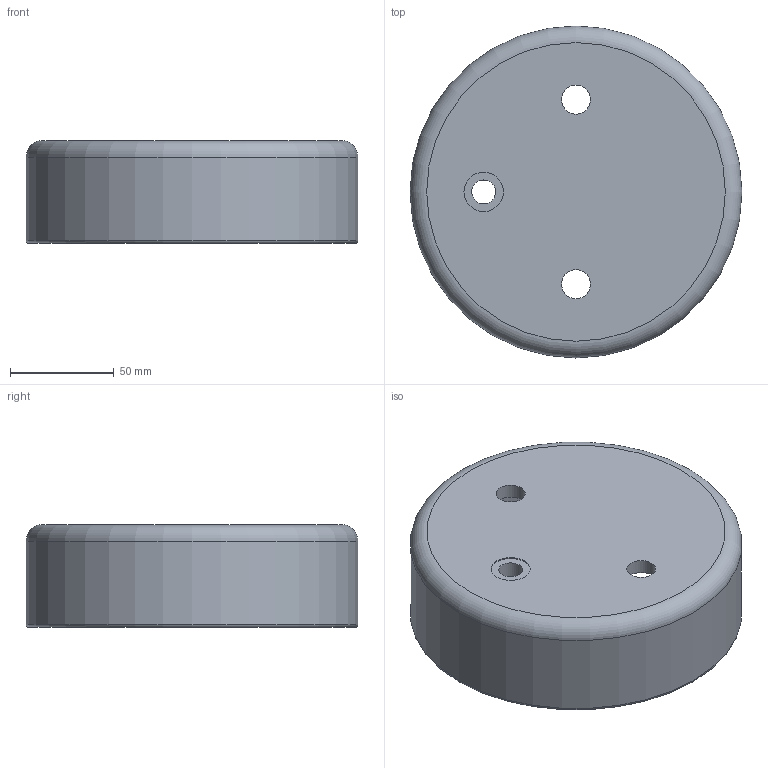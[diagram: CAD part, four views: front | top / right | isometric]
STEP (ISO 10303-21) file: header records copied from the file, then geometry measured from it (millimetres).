
FILE_DESCRIPTION(('Open CASCADE Model'),'2;1');
FILE_NAME('Open CASCADE Shape Model','2026-11-02T16:15:08',('Author'),( 'Open CASCADE'),'Open CASCADE STEP processor 7.9','Open CASCADE 7.9' ,'Unknown');
FILE_SCHEMA(('AUTOMOTIVE_DESIGN { 1 0 10303 214 1 1 1 1 }'));
Length unit declared in the file: millimetre
Products named in the file (1): Open CASCADE STEP translator 7.9 2
Bounding box: 160 x 160 x 49.6 mm (x, y, z)
Volume: 197417.8 mm3; surface area: 83146.8 mm2
Topology: 1 solids, 1 shells, 16 faces, 30 edges, 18 vertices
Faces by surface type: cylinder 7, torus 5, plane 4
Full cylindrical faces by diameter (mm): 11.5 x1, 14 x2, 17.5 x1, 19 x1, 154 x1, 160 x1
Entity records: 832 total; most frequent: CARTESIAN_POINT 168, DIRECTION 134, ORIENTED_EDGE 60, PCURVE 60, DEFINITIONAL_REPRESENTATION 60, LINE 48, VECTOR 48, AXIS2_PLACEMENT_3D 40
